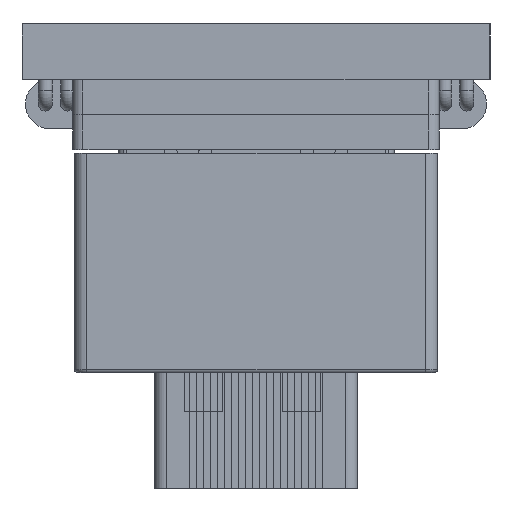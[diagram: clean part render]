
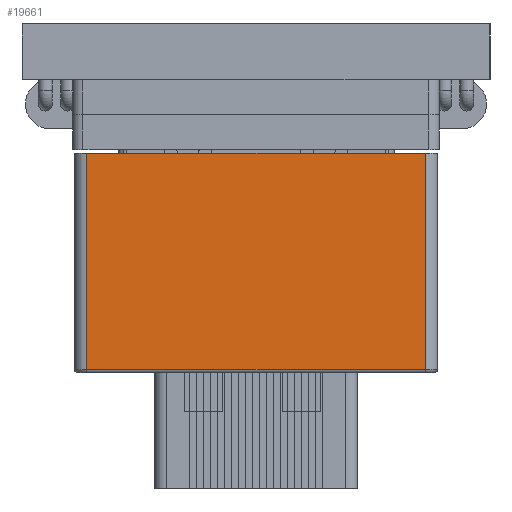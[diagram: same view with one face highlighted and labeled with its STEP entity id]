
A CAD part, front view. The second image highlights one B-rep face of the part: STEP entity #19661.
In plain terms, the highlighted planar face has unit normal (0, -1, 0).
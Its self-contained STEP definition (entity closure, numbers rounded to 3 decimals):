
#18592 = VERTEX_POINT('',#18593);
#18593 = CARTESIAN_POINT('',(-4.85,-5.4,6.3));
#18600 = EDGE_CURVE('',#18601,#18592,#18603,.T.);
#18601 = VERTEX_POINT('',#18602);
#18602 = CARTESIAN_POINT('',(4.85,-5.4,6.3));
#18603 = LINE('',#18604,#18605);
#18604 = CARTESIAN_POINT('',(5.2,-5.4,6.3));
#18605 = VECTOR('',#18606,1.);
#18606 = DIRECTION('',(-1.,0.,0.));
#19661 = ADVANCED_FACE('',(#19662),#19687,.F.);
#19662 = FACE_BOUND('',#19663,.T.);
#19663 = EDGE_LOOP('',(#19664,#19672,#19680,#19686));
#19664 = ORIENTED_EDGE('',*,*,#19665,.T.);
#19665 = EDGE_CURVE('',#18592,#19666,#19668,.T.);
#19666 = VERTEX_POINT('',#19667);
#19667 = CARTESIAN_POINT('',(-4.85,-5.4,0.1));
#19668 = LINE('',#19669,#19670);
#19669 = CARTESIAN_POINT('',(-4.85,-5.4,0.));
#19670 = VECTOR('',#19671,1.);
#19671 = DIRECTION('',(0.,0.,-1.));
#19672 = ORIENTED_EDGE('',*,*,#19673,.T.);
#19673 = EDGE_CURVE('',#19666,#19674,#19676,.T.);
#19674 = VERTEX_POINT('',#19675);
#19675 = CARTESIAN_POINT('',(4.85,-5.4,0.1));
#19676 = LINE('',#19677,#19678);
#19677 = CARTESIAN_POINT('',(4.85,-5.4,0.1));
#19678 = VECTOR('',#19679,1.);
#19679 = DIRECTION('',(1.,0.,0.));
#19680 = ORIENTED_EDGE('',*,*,#19681,.T.);
#19681 = EDGE_CURVE('',#19674,#18601,#19682,.T.);
#19682 = LINE('',#19683,#19684);
#19683 = CARTESIAN_POINT('',(4.85,-5.4,0.));
#19684 = VECTOR('',#19685,1.);
#19685 = DIRECTION('',(0.,0.,1.));
#19686 = ORIENTED_EDGE('',*,*,#18600,.T.);
#19687 = PLANE('',#19688);
#19688 = AXIS2_PLACEMENT_3D('',#19689,#19690,#19691);
#19689 = CARTESIAN_POINT('',(5.2,-5.4,0.));
#19690 = DIRECTION('',(0.,1.,0.));
#19691 = DIRECTION('',(0.,0.,1.));
